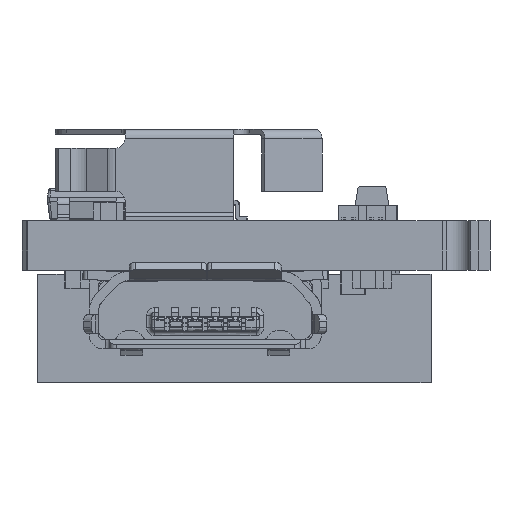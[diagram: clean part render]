
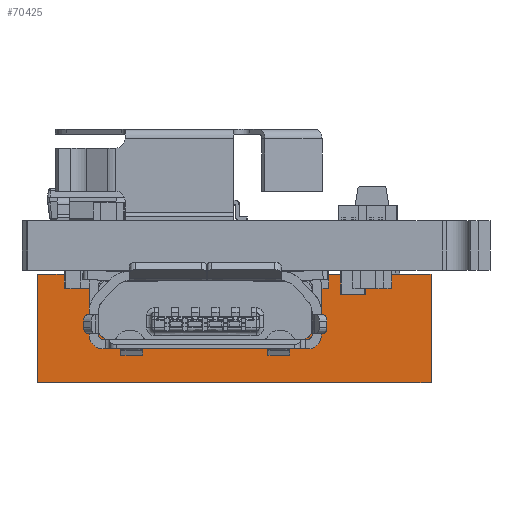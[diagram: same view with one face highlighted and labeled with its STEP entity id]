
A CAD part, front view. The second image highlights one B-rep face of the part: STEP entity #70425.
In plain terms, the highlighted planar face has unit normal (0, -1, 0) as drawn and (0, 0, 1) by its records, which use the part's own axes.
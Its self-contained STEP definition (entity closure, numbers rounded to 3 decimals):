
#69936 = VERTEX_POINT('',#69937);
#69937 = CARTESIAN_POINT('',(5.334,0.,2.54));
#69954 = VERTEX_POINT('',#69955);
#69955 = CARTESIAN_POINT('',(6.35,0.,2.54));
#69961 = EDGE_CURVE('',#69936,#69954,#69962,.T.);
#69962 = LINE('',#69963,#69964);
#69963 = CARTESIAN_POINT('',(-6.35,0.,2.54));
#69964 = VECTOR('',#69965,1.);
#69965 = DIRECTION('',(1.,0.,0.));
#70026 = VERTEX_POINT('',#70027);
#70027 = CARTESIAN_POINT('',(4.826,0.,2.54));
#70033 = EDGE_CURVE('',#70034,#70026,#70036,.T.);
#70034 = VERTEX_POINT('',#70035);
#70035 = CARTESIAN_POINT('',(2.794,0.,2.54));
#70036 = LINE('',#70037,#70038);
#70037 = CARTESIAN_POINT('',(-6.35,0.,2.54));
#70038 = VECTOR('',#70039,1.);
#70039 = DIRECTION('',(1.,0.,0.));
#70106 = VERTEX_POINT('',#70107);
#70107 = CARTESIAN_POINT('',(2.286,0.,2.54));
#70113 = EDGE_CURVE('',#70114,#70106,#70116,.T.);
#70114 = VERTEX_POINT('',#70115);
#70115 = CARTESIAN_POINT('',(0.254,0.,2.54));
#70116 = LINE('',#70117,#70118);
#70117 = CARTESIAN_POINT('',(-6.35,0.,2.54));
#70118 = VECTOR('',#70119,1.);
#70119 = DIRECTION('',(1.,0.,0.));
#70186 = VERTEX_POINT('',#70187);
#70187 = CARTESIAN_POINT('',(-0.254,0.,2.54));
#70193 = EDGE_CURVE('',#70194,#70186,#70196,.T.);
#70194 = VERTEX_POINT('',#70195);
#70195 = CARTESIAN_POINT('',(-2.286,0.,2.54));
#70196 = LINE('',#70197,#70198);
#70197 = CARTESIAN_POINT('',(-6.35,0.,2.54));
#70198 = VECTOR('',#70199,1.);
#70199 = DIRECTION('',(1.,0.,0.));
#70266 = VERTEX_POINT('',#70267);
#70267 = CARTESIAN_POINT('',(-2.794,0.,2.54));
#70273 = EDGE_CURVE('',#70274,#70266,#70276,.T.);
#70274 = VERTEX_POINT('',#70275);
#70275 = CARTESIAN_POINT('',(-4.826,0.,2.54));
#70276 = LINE('',#70277,#70278);
#70277 = CARTESIAN_POINT('',(-6.35,0.,2.54));
#70278 = VECTOR('',#70279,1.);
#70279 = DIRECTION('',(1.,0.,0.));
#70392 = VERTEX_POINT('',#70393);
#70393 = CARTESIAN_POINT('',(-6.35,0.,2.54));
#70399 = EDGE_CURVE('',#70400,#70392,#70402,.T.);
#70400 = VERTEX_POINT('',#70401);
#70401 = CARTESIAN_POINT('',(-6.35,3.505,2.54));
#70402 = LINE('',#70403,#70404);
#70403 = CARTESIAN_POINT('',(-6.35,3.505,2.54));
#70404 = VECTOR('',#70405,1.);
#70405 = DIRECTION('',(0.,-1.,0.));
#70425 = ADVANCED_FACE('',(#70426),#70486,.F.);
#70426 = FACE_BOUND('',#70427,.T.);
#70427 = EDGE_LOOP('',(#70428,#70436,#70442,#70443,#70449,#70450,#70456,
    #70457,#70463,#70464,#70470,#70471,#70479,#70485));
#70428 = ORIENTED_EDGE('',*,*,#70429,.T.);
#70429 = EDGE_CURVE('',#70392,#70430,#70432,.T.);
#70430 = VERTEX_POINT('',#70431);
#70431 = CARTESIAN_POINT('',(-5.334,0.,2.54));
#70432 = LINE('',#70433,#70434);
#70433 = CARTESIAN_POINT('',(-6.35,0.,2.54));
#70434 = VECTOR('',#70435,1.);
#70435 = DIRECTION('',(1.,0.,0.));
#70436 = ORIENTED_EDGE('',*,*,#70437,.F.);
#70437 = EDGE_CURVE('',#70274,#70430,#70438,.T.);
#70438 = LINE('',#70439,#70440);
#70439 = CARTESIAN_POINT('',(-6.35,0.,2.54));
#70440 = VECTOR('',#70441,1.);
#70441 = DIRECTION('',(-1.,0.,0.));
#70442 = ORIENTED_EDGE('',*,*,#70273,.T.);
#70443 = ORIENTED_EDGE('',*,*,#70444,.F.);
#70444 = EDGE_CURVE('',#70194,#70266,#70445,.T.);
#70445 = LINE('',#70446,#70447);
#70446 = CARTESIAN_POINT('',(-6.35,0.,2.54));
#70447 = VECTOR('',#70448,1.);
#70448 = DIRECTION('',(-1.,0.,0.));
#70449 = ORIENTED_EDGE('',*,*,#70193,.T.);
#70450 = ORIENTED_EDGE('',*,*,#70451,.F.);
#70451 = EDGE_CURVE('',#70114,#70186,#70452,.T.);
#70452 = LINE('',#70453,#70454);
#70453 = CARTESIAN_POINT('',(-6.35,0.,2.54));
#70454 = VECTOR('',#70455,1.);
#70455 = DIRECTION('',(-1.,0.,0.));
#70456 = ORIENTED_EDGE('',*,*,#70113,.T.);
#70457 = ORIENTED_EDGE('',*,*,#70458,.F.);
#70458 = EDGE_CURVE('',#70034,#70106,#70459,.T.);
#70459 = LINE('',#70460,#70461);
#70460 = CARTESIAN_POINT('',(-6.35,0.,2.54));
#70461 = VECTOR('',#70462,1.);
#70462 = DIRECTION('',(-1.,0.,0.));
#70463 = ORIENTED_EDGE('',*,*,#70033,.T.);
#70464 = ORIENTED_EDGE('',*,*,#70465,.F.);
#70465 = EDGE_CURVE('',#69936,#70026,#70466,.T.);
#70466 = LINE('',#70467,#70468);
#70467 = CARTESIAN_POINT('',(-6.35,0.,2.54));
#70468 = VECTOR('',#70469,1.);
#70469 = DIRECTION('',(-1.,0.,0.));
#70470 = ORIENTED_EDGE('',*,*,#69961,.T.);
#70471 = ORIENTED_EDGE('',*,*,#70472,.F.);
#70472 = EDGE_CURVE('',#70473,#69954,#70475,.T.);
#70473 = VERTEX_POINT('',#70474);
#70474 = CARTESIAN_POINT('',(6.35,3.505,2.54));
#70475 = LINE('',#70476,#70477);
#70476 = CARTESIAN_POINT('',(6.35,3.505,2.54));
#70477 = VECTOR('',#70478,1.);
#70478 = DIRECTION('',(0.,-1.,0.));
#70479 = ORIENTED_EDGE('',*,*,#70480,.F.);
#70480 = EDGE_CURVE('',#70400,#70473,#70481,.T.);
#70481 = LINE('',#70482,#70483);
#70482 = CARTESIAN_POINT('',(-6.35,3.505,2.54));
#70483 = VECTOR('',#70484,1.);
#70484 = DIRECTION('',(1.,0.,0.));
#70485 = ORIENTED_EDGE('',*,*,#70399,.T.);
#70486 = PLANE('',#70487);
#70487 = AXIS2_PLACEMENT_3D('',#70488,#70489,#70490);
#70488 = CARTESIAN_POINT('',(-6.35,3.505,2.54));
#70489 = DIRECTION('',(0.,0.,-1.));
#70490 = DIRECTION('',(-1.,0.,0.));
